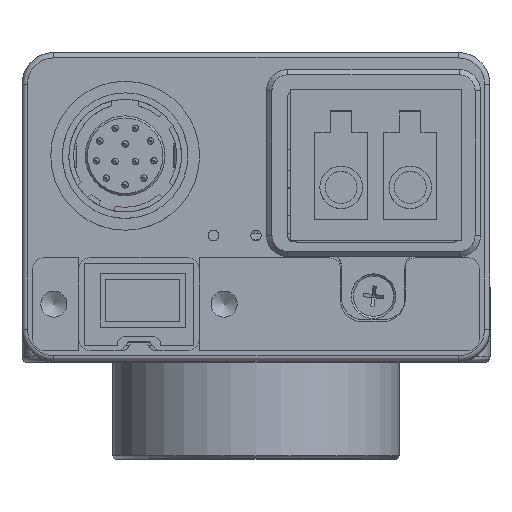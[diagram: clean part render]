
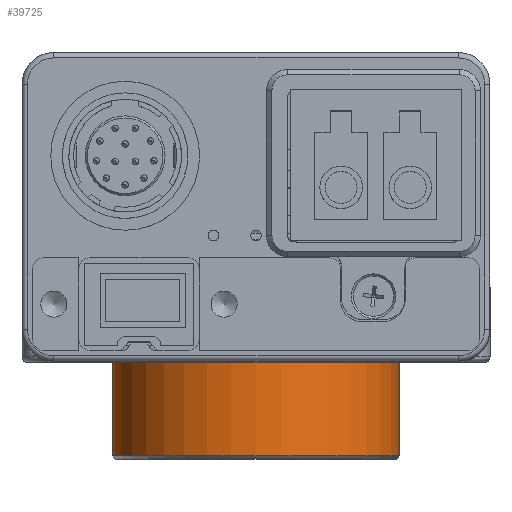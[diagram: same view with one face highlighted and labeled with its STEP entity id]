
A CAD part, top view. The second image highlights one B-rep face of the part: STEP entity #39725.
In plain terms, the highlighted cylindrical face has radius 13.5 mm (diameter 27 mm), a full revolution.
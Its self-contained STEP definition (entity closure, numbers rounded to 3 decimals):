
#39674=CARTESIAN_POINT('',(-35.591,-35.023,-15.3));
#39675=VERTEX_POINT('',#39674);
#39676=CARTESIAN_POINT('',(-22.091,-35.023,-15.3));
#39677=DIRECTION('',(0.0,0.0,-1.0));
#39678=DIRECTION('',(1.0,0.0,0.0));
#39679=AXIS2_PLACEMENT_3D('',#39676,#39677,#39678);
#39680=CIRCLE('',#39679,13.5);
#39681=EDGE_CURVE('',#39675,#39675,#39680,.T.);
#39706=CARTESIAN_POINT('',(-22.091,-35.023,-2.5));
#39707=DIRECTION('',(0.0,0.0,-1.0));
#39708=DIRECTION('',(1.0,0.0,0.0));
#39709=AXIS2_PLACEMENT_3D('',#39706,#39707,#39708);
#39710=CYLINDRICAL_SURFACE('',#39709,13.5);
#39711=CARTESIAN_POINT('',(-35.591,-35.023,-6.5));
#39712=VERTEX_POINT('',#39711);
#39713=CARTESIAN_POINT('',(-22.091,-35.023,-6.5));
#39714=DIRECTION('',(0.0,0.0,1.0));
#39715=DIRECTION('',(1.0,0.0,0.0));
#39716=AXIS2_PLACEMENT_3D('',#39713,#39714,#39715);
#39717=CIRCLE('',#39716,13.5);
#39718=EDGE_CURVE('',#39712,#39712,#39717,.T.);
#39719=ORIENTED_EDGE('',*,*,#39718,.F.);
#39720=EDGE_LOOP('',(#39719));
#39721=FACE_OUTER_BOUND('',#39720,.T.);
#39722=ORIENTED_EDGE('',*,*,#39681,.F.);
#39723=EDGE_LOOP('',(#39722));
#39724=FACE_BOUND('',#39723,.T.);
#39725=ADVANCED_FACE('',(#39721,#39724),#39710,.T.);
